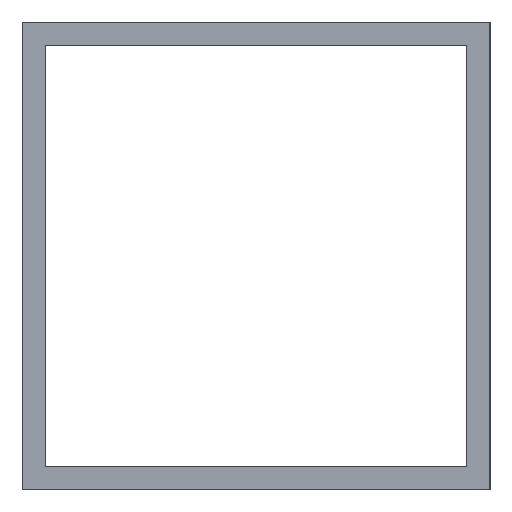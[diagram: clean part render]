
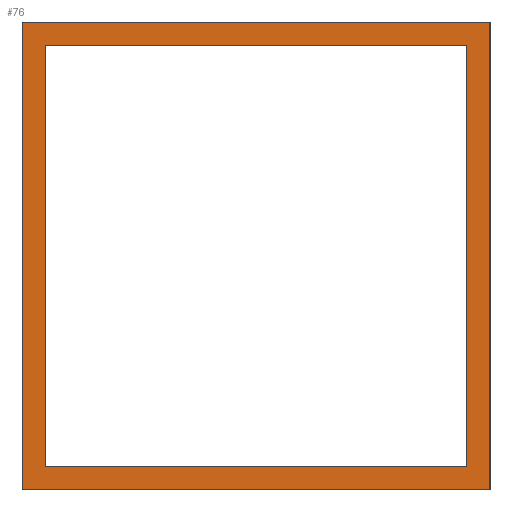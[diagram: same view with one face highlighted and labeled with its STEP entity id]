
A CAD part, left-side view. The second image highlights one B-rep face of the part: STEP entity #76.
In plain terms, the highlighted planar face has unit normal (-1, 0, 0).
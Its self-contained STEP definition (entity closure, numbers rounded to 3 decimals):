
#76=ADVANCED_FACE('',(#106,#107),#96,.T.);
#96=PLANE('',#423);
#106=FACE_BOUND('',#154,.T.);
#107=FACE_BOUND('',#155,.T.);
#154=EDGE_LOOP('',(#206,#207,#208,#209));
#155=EDGE_LOOP('',(#210,#211,#212,#213));
#206=ORIENTED_EDGE('',*,*,#330,.F.);
#207=ORIENTED_EDGE('',*,*,#331,.F.);
#208=ORIENTED_EDGE('',*,*,#332,.T.);
#209=ORIENTED_EDGE('',*,*,#333,.T.);
#210=ORIENTED_EDGE('',*,*,#334,.T.);
#211=ORIENTED_EDGE('',*,*,#335,.T.);
#212=ORIENTED_EDGE('',*,*,#336,.F.);
#213=ORIENTED_EDGE('',*,*,#337,.F.);
#294=VERTEX_POINT('',#571);
#295=VERTEX_POINT('',#572);
#296=VERTEX_POINT('',#574);
#297=VERTEX_POINT('',#576);
#298=VERTEX_POINT('',#579);
#299=VERTEX_POINT('',#580);
#300=VERTEX_POINT('',#582);
#301=VERTEX_POINT('',#584);
#330=EDGE_CURVE('',#294,#295,#374,.T.);
#331=EDGE_CURVE('',#296,#294,#375,.T.);
#332=EDGE_CURVE('',#296,#297,#376,.T.);
#333=EDGE_CURVE('',#297,#295,#377,.T.);
#334=EDGE_CURVE('',#298,#299,#378,.T.);
#335=EDGE_CURVE('',#299,#300,#379,.T.);
#336=EDGE_CURVE('',#301,#300,#380,.T.);
#337=EDGE_CURVE('',#298,#301,#381,.T.);
#374=LINE('',#570,#398);
#375=LINE('',#573,#399);
#376=LINE('',#575,#400);
#377=LINE('',#577,#401);
#378=LINE('',#578,#402);
#379=LINE('',#581,#403);
#380=LINE('',#583,#404);
#381=LINE('',#585,#405);
#398=VECTOR('',#465,1.);
#399=VECTOR('',#466,1.);
#400=VECTOR('',#467,1.);
#401=VECTOR('',#468,1.);
#402=VECTOR('',#469,1.);
#403=VECTOR('',#470,1.);
#404=VECTOR('',#471,1.);
#405=VECTOR('',#472,1.);
#423=AXIS2_PLACEMENT_3D('',#586,#473,#474);
#465=DIRECTION('',(0.,-1.,0.));
#466=DIRECTION('',(0.,0.,1.));
#467=DIRECTION('',(0.,-1.,0.));
#468=DIRECTION('',(0.,0.,1.));
#469=DIRECTION('',(0.,0.,1.));
#470=DIRECTION('',(0.,-1.,0.));
#471=DIRECTION('',(0.,0.,1.));
#472=DIRECTION('',(0.,-1.,0.));
#473=DIRECTION('',(-1.,0.,0.));
#474=DIRECTION('',(0.,0.,1.));
#570=CARTESIAN_POINT('',(-1190.,15.,0.));
#571=CARTESIAN_POINT('',(-1190.,15.,0.));
#572=CARTESIAN_POINT('',(-1190.,-15.,0.));
#573=CARTESIAN_POINT('',(-1190.,15.,-30.));
#574=CARTESIAN_POINT('',(-1190.,15.,-30.));
#575=CARTESIAN_POINT('',(-1190.,15.,-30.));
#576=CARTESIAN_POINT('',(-1190.,-15.,-30.));
#577=CARTESIAN_POINT('',(-1190.,-15.,-30.));
#578=CARTESIAN_POINT('',(-1190.,13.5,-30.));
#579=CARTESIAN_POINT('',(-1190.,13.5,-28.5));
#580=CARTESIAN_POINT('',(-1190.,13.5,-1.5));
#581=CARTESIAN_POINT('',(-1190.,0.,-1.5));
#582=CARTESIAN_POINT('',(-1190.,-13.5,-1.5));
#583=CARTESIAN_POINT('',(-1190.,-13.5,-30.));
#584=CARTESIAN_POINT('',(-1190.,-13.5,-28.5));
#585=CARTESIAN_POINT('',(-1190.,0.,-28.5));
#586=CARTESIAN_POINT('',(-1190.,15.,-30.));
